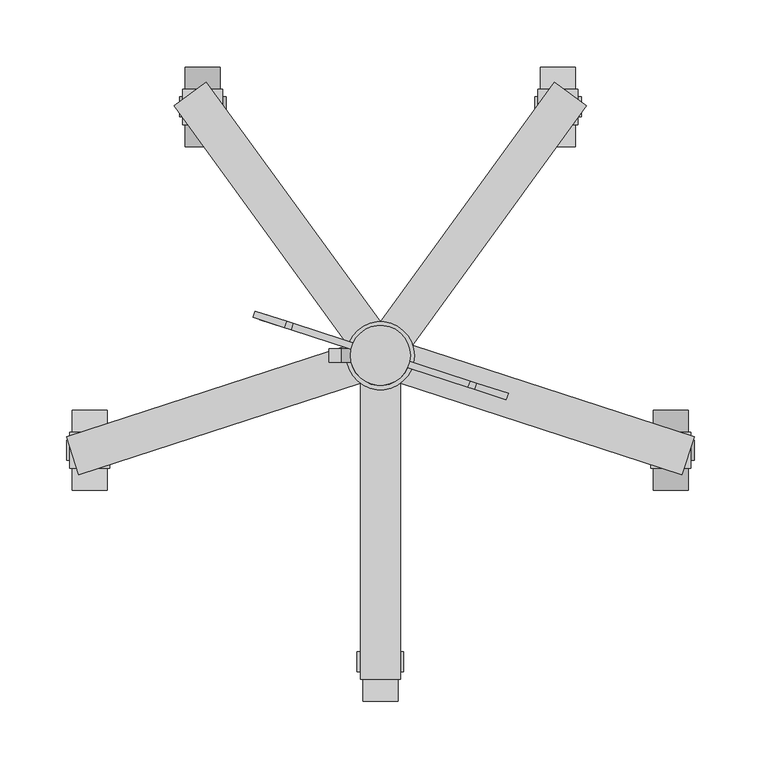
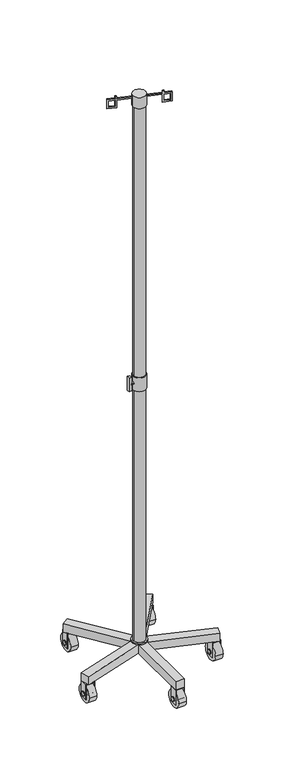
"""IFC4 building model written with IfcOpenShell, lengths in millimetres: proxy geometry, BIMHealth-Drip_Stand-LOD2A-v1 : BIMHealth-Drip_Stand-LOD2A-v1."""

from ifc_helpers import new_model, si_unit, point, frame, frame_2d, origin, origin_2d, place, context, project, spatial, polyline, circle_curve, trimmed, segment, composite_curve, outline, extrude, source, transform, mapped, element, save


def generic_models_69a9413b(model_context):
    return source(origin(), model_context, "Body", "SweptSolid", [
        extrude(outline(polyline([(-25.0, 0.0), (0.0, 0.0), (0.0, 7.1627245), (5.0, 7.1627245), (5.0, 0.0), (145.0, 0.0), (145.0, 7.1627245), (149.9999999, 7.1627245), (149.9999999, 0.0), (174.9999999, 0.0), (174.9999999, -32.8372755), (145.0, -32.8372755), (145.0, -5.0), (5.0, -5.0), (5.0, -32.8372755), (-25.0, -32.8372755), (-25.0, 0.0)]), holes=[polyline([(-20.0, -5.0), (-20.0, -27.8372755), (0.0, -27.8372755), (0.0, -5.0), (-20.0, -5.0)]), polyline([(170.0, -5.0), (149.9999999, -5.0), (149.9999999, -27.8372755), (170.0, -27.8372755), (170.0, -5.0)])]), frame((70.8229361, -25.6404224, 2092.8372755), z_axis=(0.30901699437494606, 0.9510565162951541, 0.0), x_axis=(-0.9510565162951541, 0.30901699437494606, 0.0)), (0.0, 0.0, 1.0), 5.0),
        extrude(outline(composite_curve([segment(trimmed(circle_curve(origin_2d(), 25.5195243), [point((-25.5195243, 0.0))], [point((25.5195243, 0.0))], False, "CARTESIAN"), True, "CONTINUOUS"), segment(trimmed(circle_curve(origin_2d(), 25.5195243), [point((25.5195243, 0.0))], [point((-25.5195243, 0.0))], False, "CARTESIAN"), True, "CONTINUOUS")], self_intersect=False)), frame((0.0, 0.0, 100.0), z_axis=(0.0, 0.0, 1.0), x_axis=(1.0, 0.0, 0.0)), (0.0, 0.0, 1.0), 5.0),
        extrude(outline(composite_curve([segment(trimmed(circle_curve(frame_2d((186.9643053, 30.0)), 7.5), [point((179.4643053, 30.0))], [point((194.4643053, 30.0))], False, "CARTESIAN"), True, "CONTINUOUS"), segment(trimmed(circle_curve(frame_2d((186.9643053, 30.0)), 7.5), [point((194.4643053, 30.0))], [point((179.4643053, 30.0))], False, "CARTESIAN"), True, "CONTINUOUS")], self_intersect=False)), frame((116.0980147, 0.0, 0.0), z_axis=(1.0, 0.0, 0.0), x_axis=(0.0, 1.0, 0.0)), (0.0, 0.0, 1.0), 34.9726641),
        extrude(outline(composite_curve([segment(trimmed(circle_curve(frame_2d((186.9643053, 30.0)), 30.0), [point((156.9643053, 30.0))], [point((216.9643053, 30.0))], False, "CARTESIAN"), True, "CONTINUOUS"), segment(trimmed(circle_curve(frame_2d((186.9643053, 30.0)), 30.0), [point((216.9643053, 30.0))], [point((156.9643053, 30.0))], False, "CARTESIAN"), True, "CONTINUOUS")], self_intersect=False)), frame((120.3978516, 0.0, 0.0), z_axis=(1.0, 0.0, 0.0), x_axis=(0.0, 1.0, 0.0)), (0.0, 0.0, 1.0), 26.3069144),
        extrude(outline(polyline([(15.0, 118.5513088), (15.0, 120.3978516), (68.0, 120.3978516), (68.0, 146.704766), (15.0, 146.704766), (15.0, 148.5513088), (70.0, 148.5513088), (70.0, 118.5513088), (15.0, 118.5513088)])), frame((0.0, 173.5312178, 0.0), z_axis=(0.0, 1.0, 0.0), x_axis=(0.0, 0.0, 1.0)), (0.0, 0.0, 1.0), 26.866175),
        extrude(outline(composite_curve([segment(trimmed(circle_curve(frame_2d((-71.0018239, 30.0)), 7.5), [point((-63.5018239, 30.0))], [point((-78.5018239, 30.0))], False, "CARTESIAN"), True, "CONTINUOUS"), segment(trimmed(circle_curve(frame_2d((-71.0018239, 30.0)), 7.5), [point((-78.5018239, 30.0))], [point((-63.5018239, 30.0))], False, "CARTESIAN"), True, "CONTINUOUS")], self_intersect=False)), frame((-235.9601247, 0.0, 0.0), z_axis=(1.0, 0.0, 0.0), x_axis=(0.0, 1.0, 0.0)), (0.0, 0.0, 1.0), 34.9726641),
        extrude(outline(composite_curve([segment(trimmed(circle_curve(frame_2d((-71.0018239, 30.0)), 30.0), [point((-41.0018239, 30.0))], [point((-101.0018239, 30.0))], False, "CARTESIAN"), True, "CONTINUOUS"), segment(trimmed(circle_curve(frame_2d((-71.0018239, 30.0)), 30.0), [point((-101.0018239, 30.0))], [point((-41.0018239, 30.0))], False, "CARTESIAN"), True, "CONTINUOUS")], self_intersect=False)), frame((-231.6602879, 0.0, 0.0), z_axis=(1.0, 0.0, 0.0), x_axis=(0.0, 1.0, 0.0)), (0.0, 0.0, 1.0), 26.3069144),
        extrude(outline(polyline([(15.0, -233.5068307), (15.0, -231.6602879), (68.0, -231.6602879), (68.0, -205.3533735), (15.0, -205.3533735), (15.0, -203.5068307), (70.0, -203.5068307), (70.0, -233.5068307), (15.0, -233.5068307)])), frame((0.0, -84.4349114, 0.0), z_axis=(0.0, 1.0, 0.0), x_axis=(0.0, 0.0, 1.0)), (0.0, 0.0, 1.0), 26.866175),
        extrude(outline(composite_curve([segment(trimmed(circle_curve(frame_2d((186.9643053, 30.0)), 7.5), [point((179.4643053, 30.0))], [point((194.4643053, 30.0))], False, "CARTESIAN"), True, "CONTINUOUS"), segment(trimmed(circle_curve(frame_2d((186.9643053, 30.0)), 7.5), [point((194.4643053, 30.0))], [point((179.4643053, 30.0))], False, "CARTESIAN"), True, "CONTINUOUS")], self_intersect=False)), frame((-151.0706789, 0.0, 0.0), z_axis=(1.0, 0.0, 0.0), x_axis=(0.0, 1.0, 0.0)), (0.0, 0.0, 1.0), 34.9726641),
        extrude(outline(composite_curve([segment(trimmed(circle_curve(frame_2d((186.9643053, 30.0)), 30.0), [point((156.9643053, 30.0))], [point((216.9643053, 30.0))], False, "CARTESIAN"), True, "CONTINUOUS"), segment(trimmed(circle_curve(frame_2d((186.9643053, 30.0)), 30.0), [point((216.9643053, 30.0))], [point((156.9643053, 30.0))], False, "CARTESIAN"), True, "CONTINUOUS")], self_intersect=False)), frame((-146.704766, 0.0, 0.0), z_axis=(1.0, 0.0, 0.0), x_axis=(0.0, 1.0, 0.0)), (0.0, 0.0, 1.0), 26.3069144),
        extrude(outline(polyline([(15.0, -118.5513088), (70.0, -118.5513088), (70.0, -148.5513088), (15.0, -148.5513088), (15.0, -146.704766), (68.0, -146.704766), (68.0, -120.3978516), (15.0, -120.3978516), (15.0, -118.5513088)])), frame((0.0, 173.5312178, 0.0), z_axis=(0.0, 1.0, 0.0), x_axis=(0.0, 0.0, 1.0)), (0.0, 0.0, 1.0), 26.866175),
        extrude(outline(composite_curve([segment(trimmed(circle_curve(frame_2d((-71.0018239, 30.0)), 7.5), [point((-63.5018239, 30.0))], [point((-78.5018239, 30.0))], False, "CARTESIAN"), True, "CONTINUOUS"), segment(trimmed(circle_curve(frame_2d((-71.0018239, 30.0)), 7.5), [point((-78.5018239, 30.0))], [point((-63.5018239, 30.0))], False, "CARTESIAN"), True, "CONTINUOUS")], self_intersect=False)), frame((200.9874606, 0.0, 0.0), z_axis=(1.0, 0.0, 0.0), x_axis=(0.0, 1.0, 0.0)), (0.0, 0.0, 1.0), 34.9726641),
        extrude(outline(composite_curve([segment(trimmed(circle_curve(frame_2d((-71.0018239, 30.0)), 30.0), [point((-41.0018239, 30.0))], [point((-101.0018239, 30.0))], False, "CARTESIAN"), True, "CONTINUOUS"), segment(trimmed(circle_curve(frame_2d((-71.0018239, 30.0)), 30.0), [point((-101.0018239, 30.0))], [point((-41.0018239, 30.0))], False, "CARTESIAN"), True, "CONTINUOUS")], self_intersect=False)), frame((205.3533735, 0.0, 0.0), z_axis=(1.0, 0.0, 0.0), x_axis=(0.0, 1.0, 0.0)), (0.0, 0.0, 1.0), 26.3069144),
        extrude(outline(polyline([(15.0, 233.5068307), (70.0, 233.5068307), (70.0, 203.5068307), (15.0, 203.5068307), (15.0, 205.3533735), (68.0, 205.3533735), (68.0, 231.6602879), (15.0, 231.6602879), (15.0, 233.5068307)])), frame((0.0, -84.4349114, 0.0), z_axis=(0.0, 1.0, 0.0), x_axis=(0.0, 0.0, 1.0)), (0.0, 0.0, 1.0), 26.866175),
        extrude(outline(composite_curve([segment(trimmed(circle_curve(frame_2d((-229.751961, 30.0)), 7.5), [point((-222.251961, 30.0))], [point((-237.251961, 30.0))], False, "CARTESIAN"), True, "CONTINUOUS"), segment(trimmed(circle_curve(frame_2d((-229.751961, 30.0)), 7.5), [point((-237.251961, 30.0))], [point((-222.251961, 30.0))], False, "CARTESIAN"), True, "CONTINUOUS")], self_intersect=False)), frame((-17.453294, 0.0, 0.0), z_axis=(1.0, 0.0, 0.0), x_axis=(0.0, 1.0, 0.0)), (0.0, 0.0, 1.0), 34.9726641),
        extrude(outline(composite_curve([segment(trimmed(circle_curve(frame_2d((-229.751961, 30.0)), 30.0), [point((-199.751961, 30.0))], [point((-259.751961, 30.0))], False, "CARTESIAN"), True, "CONTINUOUS"), segment(trimmed(circle_curve(frame_2d((-229.751961, 30.0)), 30.0), [point((-259.751961, 30.0))], [point((-199.751961, 30.0))], False, "CARTESIAN"), True, "CONTINUOUS")], self_intersect=False)), frame((-13.1534572, 0.0, 0.0), z_axis=(1.0, 0.0, 0.0), x_axis=(0.0, 1.0, 0.0)), (0.0, 0.0, 1.0), 26.3069144),
        extrude(outline(polyline([(15.0, -15.0), (15.0, -13.1534572), (68.0, -13.1534572), (68.0, 13.1534572), (15.0, 13.1534572), (15.0, 15.0), (70.0, 15.0), (70.0, -15.0), (15.0, -15.0)])), frame((0.0, -243.1850485, 0.0), z_axis=(0.0, 1.0, 0.0), x_axis=(0.0, 0.0, 1.0)), (0.0, 0.0, 1.0), 26.866175),
        extrude(outline(polyline([(-38.4890882, -5.0), (-38.4890882, 5.0), (-29.4722646, 5.0), (-29.4722646, -5.0), (-38.4890882, -5.0)])), frame((0.0, 0.0, 1025.0), z_axis=(0.0, 0.0, 1.0), x_axis=(1.0, 0.0, 0.0)), (0.0, 0.0, 1.0), 50.0),
        extrude(outline(composite_curve([segment(trimmed(circle_curve(frame_2d((0.0, 1050.0)), 5.0), [point((5.0, 1050.0))], [point((-5.0, 1050.0))], False, "CARTESIAN"), True, "CONTINUOUS"), segment(trimmed(circle_curve(frame_2d((0.0, 1050.0)), 5.0), [point((-5.0, 1050.0))], [point((5.0, 1050.0))], False, "CARTESIAN"), True, "CONTINUOUS")], self_intersect=False)), frame((-29.4722646, 0.0, 0.0), z_axis=(1.0, 0.0, 0.0), x_axis=(0.0, 1.0, 0.0)), (0.0, 0.0, 1.0), 11.979748),
        extrude(outline(composite_curve([segment(trimmed(circle_curve(origin_2d(), 22.5), [point((-22.5, 0.0))], [point((22.5, 0.0))], False, "CARTESIAN"), True, "CONTINUOUS"), segment(trimmed(circle_curve(origin_2d(), 22.5), [point((22.5, 0.0))], [point((-22.5, 0.0))], False, "CARTESIAN"), True, "CONTINUOUS")], self_intersect=False)), frame((0.0, 0.0, 1025.0), z_axis=(0.0, 0.0, 1.0), x_axis=(1.0, 0.0, 0.0)), (0.0, 0.0, 1.0), 50.0),
        extrude(outline(composite_curve([segment(trimmed(circle_curve(origin_2d(), 22.5), [point((-22.5, 0.0))], [point((22.5, 0.0))], False, "CARTESIAN"), True, "CONTINUOUS"), segment(trimmed(circle_curve(origin_2d(), 22.5), [point((22.5, 0.0))], [point((-22.5, 0.0))], False, "CARTESIAN"), True, "CONTINUOUS")], self_intersect=False)), frame((0.0, 0.0, 2060.0), z_axis=(0.0, 0.0, 1.0), x_axis=(1.0, 0.0, 0.0)), (0.0, 0.0, 1.0), 40.0),
        extrude(outline(composite_curve([segment(trimmed(circle_curve(origin_2d(), 20.0), [point((-20.0, 0.0))], [point((20.0, 0.0))], False, "CARTESIAN"), True, "CONTINUOUS"), segment(trimmed(circle_curve(origin_2d(), 20.0), [point((20.0, 0.0))], [point((-20.0, 0.0))], False, "CARTESIAN"), True, "CONTINUOUS")], self_intersect=False)), frame((0.0, 0.0, 100.0), z_axis=(0.0, 0.0, 1.0), x_axis=(1.0, 0.0, 0.0)), (0.0, 0.0, 1.0), 1960.0),
        extrude(outline(polyline([(15.0, -243.1850485), (-15.0, -243.1850485), (-15.0, -20.6457288), (-226.6474701, -89.4141605), (-235.91798, -60.882465), (-24.2705098, 7.8859667), (-155.07584, 187.9240582), (-130.8053302, 205.5576158), (0.0, 25.5195243), (130.8053302, 205.5576158), (155.07584, 187.9240582), (24.2705098, 7.8859667), (235.91798, -60.882465), (226.6474701, -89.4141605), (15.0, -20.6457288), (15.0, -243.1850485)])), frame((0.0, 0.0, 70.0), z_axis=(0.0, 0.0, 1.0), x_axis=(1.0, 0.0, 0.0)), (0.0, 0.0, 1.0), 30.0),
    ])


if __name__ == "__main__":
    model = new_model("IFC4")
    model_context = context("Model", 3, world=origin())
    ifc_project = project(units=[si_unit("LENGTHUNIT", "METRE", prefix="MILLI")], contexts=[model_context])
    site = spatial("IfcSite", under=ifc_project)
    building = spatial("IfcBuilding", under=site)
    placement = place(None, origin())
    generic_models_shape = generic_models_69a9413b(model_context)
    element("IfcBuildingElementProxy", 1, Name="BIMHealth-Drip_Stand-LOD2A-v1 : BIMHealth-Drip_Stand-LOD2A-v1", ObjectType="BIMHealth-Drip_Stand-LOD2A-v1 : BIMHealth-Drip_Stand-LOD2A-v1", at=placement, inside=building, context=model_context, shape_type="MappedRepresentation", body=[
        mapped(generic_models_shape, transform((0.0, 0.0, 0.0), x_axis=(1.0, 0.0, 0.0), y_axis=(0.0, 1.0, 0.0), z_axis=(0.0, 0.0, 1.0))),
    ])
    save(model, "model.ifc")
